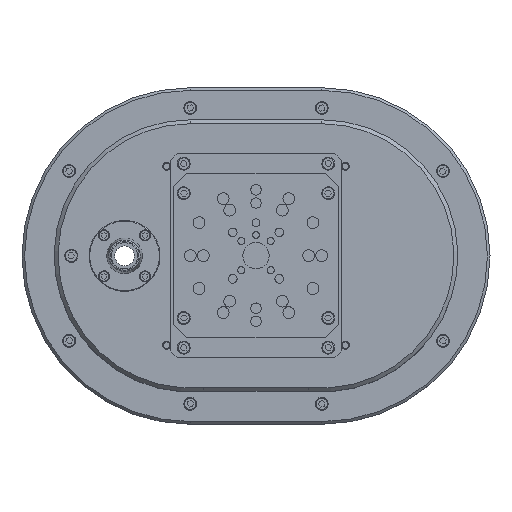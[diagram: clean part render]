
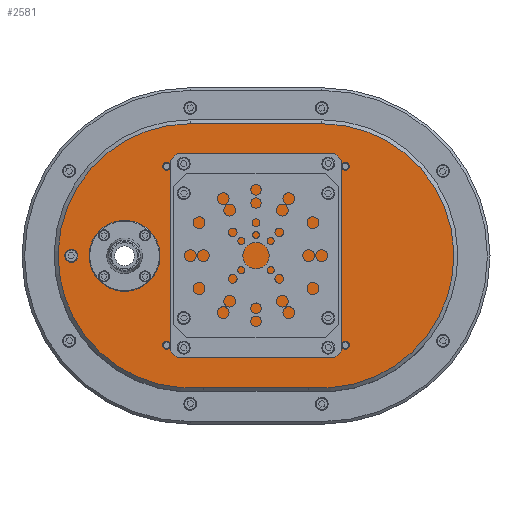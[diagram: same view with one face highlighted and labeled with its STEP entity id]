
A CAD part, top view. The second image highlights one B-rep face of the part: STEP entity #2581.
In plain terms, the highlighted planar face has unit normal (0, 0, 1) as drawn and (0, 0, -1) by its records, which use the part's own axes.
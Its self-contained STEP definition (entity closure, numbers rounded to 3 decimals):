
#2581=ADVANCED_FACE('',(#3471,#3472,#3473,#3474,#3475,#3476,#3477,#3478,#3479,#3480,#3481,#3482,#3483,#3484,#3485),#3486,.T.);
#3471=FACE_BOUND('',#5710,.T.);
#3472=FACE_BOUND('',#5711,.T.);
#3473=FACE_BOUND('',#5712,.T.);
#3474=FACE_BOUND('',#5713,.T.);
#3475=FACE_BOUND('',#5714,.T.);
#3476=FACE_BOUND('',#5715,.T.);
#3477=FACE_BOUND('',#5716,.T.);
#3478=FACE_BOUND('',#5717,.T.);
#3479=FACE_BOUND('',#5718,.T.);
#3480=FACE_BOUND('',#5719,.T.);
#3481=FACE_BOUND('',#5720,.T.);
#3482=FACE_BOUND('',#5721,.T.);
#3483=FACE_OUTER_BOUND('',#5722,.T.);
#3484=FACE_BOUND('',#5723,.T.);
#3485=FACE_BOUND('',#5724,.T.);
#3486=PLANE('',#5725);
#5710=EDGE_LOOP('',(#8106));
#5711=EDGE_LOOP('',(#8107));
#5712=EDGE_LOOP('',(#8108));
#5713=EDGE_LOOP('',(#8109));
#5714=EDGE_LOOP('',(#8110));
#5715=EDGE_LOOP('',(#8111));
#5716=EDGE_LOOP('',(#8112));
#5717=EDGE_LOOP('',(#8113));
#5718=EDGE_LOOP('',(#8114));
#5719=EDGE_LOOP('',(#8115));
#5720=EDGE_LOOP('',(#8116));
#5721=EDGE_LOOP('',(#8117));
#5722=EDGE_LOOP('',(#8118,#8119,#8120,#8121));
#5723=EDGE_LOOP('',(#8122));
#5724=EDGE_LOOP('',(#8123));
#5725=AXIS2_PLACEMENT_3D('',#8124,#8125,#8126);
#8106=ORIENTED_EDGE('',*,*,#13107,.T.);
#8107=ORIENTED_EDGE('',*,*,#13108,.T.);
#8108=ORIENTED_EDGE('',*,*,#13109,.T.);
#8109=ORIENTED_EDGE('',*,*,#13110,.T.);
#8110=ORIENTED_EDGE('',*,*,#13111,.T.);
#8111=ORIENTED_EDGE('',*,*,#13112,.T.);
#8112=ORIENTED_EDGE('',*,*,#13113,.T.);
#8113=ORIENTED_EDGE('',*,*,#13114,.T.);
#8114=ORIENTED_EDGE('',*,*,#13115,.T.);
#8115=ORIENTED_EDGE('',*,*,#13116,.T.);
#8116=ORIENTED_EDGE('',*,*,#13117,.T.);
#8117=ORIENTED_EDGE('',*,*,#13118,.T.);
#8118=ORIENTED_EDGE('',*,*,#13119,.T.);
#8119=ORIENTED_EDGE('',*,*,#13120,.T.);
#8120=ORIENTED_EDGE('',*,*,#13068,.T.);
#8121=ORIENTED_EDGE('',*,*,#13121,.T.);
#8122=ORIENTED_EDGE('',*,*,#13101,.T.);
#8123=ORIENTED_EDGE('',*,*,#13100,.T.);
#8124=CARTESIAN_POINT('',(100.0,0.0,-63.5));
#8125=DIRECTION('',(0.0,0.0,-1.0));
#8126=DIRECTION('',(1.0,0.0,0.0));
#13068=EDGE_CURVE('',#14524,#14522,#14525,.T.);
#13100=EDGE_CURVE('',#14582,#14582,#14583,.T.);
#13101=EDGE_CURVE('',#14584,#14584,#14585,.T.);
#13107=EDGE_CURVE('',#14594,#14594,#14595,.T.);
#13108=EDGE_CURVE('',#14596,#14596,#14597,.T.);
#13109=EDGE_CURVE('',#14598,#14598,#14599,.T.);
#13110=EDGE_CURVE('',#14600,#14600,#14601,.T.);
#13111=EDGE_CURVE('',#14602,#14602,#14603,.T.);
#13112=EDGE_CURVE('',#14604,#14604,#14605,.T.);
#13113=EDGE_CURVE('',#14606,#14606,#14607,.T.);
#13114=EDGE_CURVE('',#14608,#14608,#14609,.T.);
#13115=EDGE_CURVE('',#14610,#14610,#14611,.T.);
#13116=EDGE_CURVE('',#14612,#14612,#14613,.T.);
#13117=EDGE_CURVE('',#14614,#14614,#14615,.T.);
#13118=EDGE_CURVE('',#14616,#14616,#14617,.T.);
#13119=EDGE_CURVE('',#14618,#14619,#14620,.T.);
#13120=EDGE_CURVE('',#14619,#14524,#14621,.T.);
#13121=EDGE_CURVE('',#14522,#14618,#14622,.T.);
#14522=VERTEX_POINT('',#17276);
#14524=VERTEX_POINT('',#17281);
#14525=LINE('',#17282,#17283);
#14582=VERTEX_POINT('',#17359);
#14583=CIRCLE('',#17360,3.0);
#14584=VERTEX_POINT('',#17361);
#14585=CIRCLE('',#17362,3.0);
#14594=VERTEX_POINT('',#17376);
#14595=CIRCLE('',#17377,2.5);
#14596=VERTEX_POINT('',#17378);
#14597=CIRCLE('',#17379,2.5);
#14598=VERTEX_POINT('',#17380);
#14599=CIRCLE('',#17381,2.5);
#14600=VERTEX_POINT('',#17382);
#14601=CIRCLE('',#17383,2.5);
#14602=VERTEX_POINT('',#17384);
#14603=CIRCLE('',#17385,18.0);
#14604=VERTEX_POINT('',#17386);
#14605=CIRCLE('',#17387,3.0);
#14606=VERTEX_POINT('',#17388);
#14607=CIRCLE('',#17389,3.0);
#14608=VERTEX_POINT('',#17390);
#14609=CIRCLE('',#17391,3.0);
#14610=VERTEX_POINT('',#17392);
#14611=CIRCLE('',#17393,3.0);
#14612=VERTEX_POINT('',#17394);
#14613=CIRCLE('',#17395,4.25);
#14614=VERTEX_POINT('',#17396);
#14615=CIRCLE('',#17397,3.0);
#14616=VERTEX_POINT('',#17398);
#14617=CIRCLE('',#17399,3.0);
#14618=VERTEX_POINT('',#17400);
#14619=VERTEX_POINT('',#17401);
#14620=LINE('',#17402,#17403);
#14621=CIRCLE('',#17404,100.5);
#14622=CIRCLE('',#17405,100.5);
#17276=CARTESIAN_POINT('',(89.988,100.0,-63.5));
#17281=CARTESIAN_POINT('',(10.012,100.0,-63.5));
#17282=CARTESIAN_POINT('',(89.839,100.0,-63.5));
#17283=VECTOR('',#20504,1.0);
#17359=CARTESIAN_POINT('',(121.0,68.0,-63.5));
#17360=AXIS2_PLACEMENT_3D('',#20563,#20564,#20565);
#17361=CARTESIAN_POINT('',(121.0,-68.0,-63.5));
#17362=AXIS2_PLACEMENT_3D('',#20566,#20567,#20568);
#17376=CARTESIAN_POINT('',(-63.789,-13.789,-63.5));
#17377=AXIS2_PLACEMENT_3D('',#20574,#20575,#20576);
#17378=CARTESIAN_POINT('',(-36.211,-13.789,-63.5));
#17379=AXIS2_PLACEMENT_3D('',#20577,#20578,#20579);
#17380=CARTESIAN_POINT('',(-36.211,13.789,-63.5));
#17381=AXIS2_PLACEMENT_3D('',#20580,#20581,#20582);
#17382=CARTESIAN_POINT('',(-63.789,13.789,-63.5));
#17383=AXIS2_PLACEMENT_3D('',#20583,#20584,#20585);
#17384=CARTESIAN_POINT('',(-32.0,0.,-63.5));
#17385=AXIS2_PLACEMENT_3D('',#20586,#20587,#20588);
#17386=CARTESIAN_POINT('',(-2.,70.0,-63.5));
#17387=AXIS2_PLACEMENT_3D('',#20589,#20590,#20591);
#17388=CARTESIAN_POINT('',(-2.,-70.0,-63.5));
#17389=AXIS2_PLACEMENT_3D('',#20592,#20593,#20594);
#17390=CARTESIAN_POINT('',(108.0,-70.0,-63.5));
#17391=AXIS2_PLACEMENT_3D('',#20595,#20596,#20597);
#17392=CARTESIAN_POINT('',(108.0,70.0,-63.5));
#17393=AXIS2_PLACEMENT_3D('',#20598,#20599,#20600);
#17394=CARTESIAN_POINT('',(-86.25,0.,-63.5));
#17395=AXIS2_PLACEMENT_3D('',#20601,#20602,#20603);
#17396=CARTESIAN_POINT('',(-15.0,-68.0,-63.5));
#17397=AXIS2_PLACEMENT_3D('',#20604,#20605,#20606);
#17398=CARTESIAN_POINT('',(-15.0,68.0,-63.5));
#17399=AXIS2_PLACEMENT_3D('',#20607,#20608,#20609);
#17400=CARTESIAN_POINT('',(100.0,-100.5,-63.5));
#17401=CARTESIAN_POINT('',(0.0,-100.5,-63.5));
#17402=CARTESIAN_POINT('',(0.0,-100.5,-63.5));
#17403=VECTOR('',#20610,1.0);
#17404=AXIS2_PLACEMENT_3D('',#20611,#20612,#20613);
#17405=AXIS2_PLACEMENT_3D('',#20614,#20615,#20616);
#20504=DIRECTION('',(1.0,0.0,0.0));
#20563=CARTESIAN_POINT('',(118.0,68.0,-63.5));
#20564=DIRECTION('',(0.0,0.0,1.0));
#20565=DIRECTION('',(1.0,0.0,0.0));
#20566=CARTESIAN_POINT('',(118.0,-68.0,-63.5));
#20567=DIRECTION('',(0.0,0.0,1.0));
#20568=DIRECTION('',(1.0,0.0,0.0));
#20574=CARTESIAN_POINT('',(-65.556,-15.556,-63.5));
#20575=DIRECTION('',(0.0,-0.0,1.0));
#20576=DIRECTION('',(0.707,0.707,0.0));
#20577=CARTESIAN_POINT('',(-34.444,-15.556,-63.5));
#20578=DIRECTION('',(0.0,0.0,1.0));
#20579=DIRECTION('',(-0.707,0.707,0.0));
#20580=CARTESIAN_POINT('',(-34.444,15.556,-63.5));
#20581=DIRECTION('',(0.0,0.0,1.0));
#20582=DIRECTION('',(-0.707,-0.707,0.0));
#20583=CARTESIAN_POINT('',(-65.556,15.556,-63.5));
#20584=DIRECTION('',(0.0,0.0,1.0));
#20585=DIRECTION('',(0.707,-0.707,0.0));
#20586=CARTESIAN_POINT('',(-50.0,0.,-63.5));
#20587=DIRECTION('',(0.0,0.0,1.0));
#20588=DIRECTION('',(1.0,0.0,0.0));
#20589=CARTESIAN_POINT('',(-5.,70.0,-63.5));
#20590=DIRECTION('',(0.0,0.0,1.0));
#20591=DIRECTION('',(1.0,0.0,0.0));
#20592=CARTESIAN_POINT('',(-5.,-70.0,-63.5));
#20593=DIRECTION('',(0.0,0.0,1.0));
#20594=DIRECTION('',(1.0,0.0,0.0));
#20595=CARTESIAN_POINT('',(105.0,-70.0,-63.5));
#20596=DIRECTION('',(0.0,0.0,1.0));
#20597=DIRECTION('',(1.0,0.0,0.0));
#20598=CARTESIAN_POINT('',(105.0,70.0,-63.5));
#20599=DIRECTION('',(0.0,0.0,1.0));
#20600=DIRECTION('',(1.0,0.0,0.0));
#20601=CARTESIAN_POINT('',(-90.5,0.,-63.5));
#20602=DIRECTION('',(0.0,0.0,1.0));
#20603=DIRECTION('',(1.0,0.0,0.0));
#20604=CARTESIAN_POINT('',(-18.0,-68.0,-63.5));
#20605=DIRECTION('',(0.0,0.0,1.0));
#20606=DIRECTION('',(1.0,0.0,0.0));
#20607=CARTESIAN_POINT('',(-18.0,68.0,-63.5));
#20608=DIRECTION('',(0.0,0.0,1.0));
#20609=DIRECTION('',(1.0,0.0,0.0));
#20610=DIRECTION('',(-1.0,0.0,0.0));
#20611=CARTESIAN_POINT('',(0.0,0.0,-63.5));
#20612=DIRECTION('',(0.0,0.0,-1.0));
#20613=DIRECTION('',(-1.0,0.0,0.0));
#20614=CARTESIAN_POINT('',(100.0,0.0,-63.5));
#20615=DIRECTION('',(0.0,0.0,-1.0));
#20616=DIRECTION('',(-1.0,0.0,0.0));
